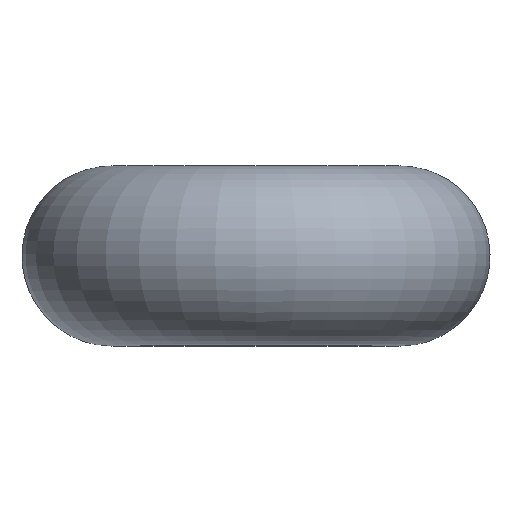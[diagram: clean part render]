
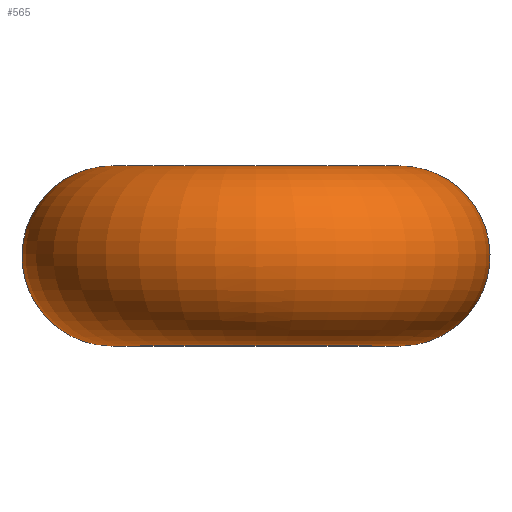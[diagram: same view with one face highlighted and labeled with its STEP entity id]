
A CAD part, top view. The second image highlights one B-rep face of the part: STEP entity #565.
In plain terms, the highlighted toroidal (fillet/blend) face has major radius 4 mm and minor radius 2.5 mm.
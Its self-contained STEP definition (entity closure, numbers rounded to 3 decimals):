
#439=CARTESIAN_POINT('',(4.124,0.464,-5.003));
#440=VERTEX_POINT('',#439);
#470=CARTESIAN_POINT('',(4.124,0.464,-5.003));
#471=CARTESIAN_POINT('',(4.238,0.477,-4.911));
#472=CARTESIAN_POINT('',(4.462,0.439,-4.708));
#473=CARTESIAN_POINT('',(4.695,0.206,-4.422));
#474=CARTESIAN_POINT('',(4.755,-0.14,-4.205));
#475=CARTESIAN_POINT('',(4.591,-0.62,-4.049));
#476=CARTESIAN_POINT('',(4.168,-0.994,-4.054));
#477=CARTESIAN_POINT('',(3.636,-1.169,-4.27));
#478=CARTESIAN_POINT('',(3.354,-1.131,-4.549));
#479=CARTESIAN_POINT('',(3.235,-1.014,-4.783));
#480=CARTESIAN_POINT('',(3.168,-0.86,-5.));
#481=CARTESIAN_POINT('',(3.167,-0.561,-5.27));
#482=CARTESIAN_POINT('',(3.3,-0.198,-5.395));
#483=CARTESIAN_POINT('',(3.604,0.245,-5.366));
#484=CARTESIAN_POINT('',(3.897,0.437,-5.186));
#485=CARTESIAN_POINT('',(4.124,0.464,-5.003));
#486=B_SPLINE_CURVE_WITH_KNOTS('',3,(#470,#471,#472,#473,#474,#475,#476,#477,#478,#479,#480,#481,#482,#483,#484,#485),.UNSPECIFIED.,.T.,.U.,(4,1,1,1,1,1,1,1,1,1,1,1,1,4),(0.0,0.02,0.041,0.061,0.081,0.122,0.142,0.163,0.173,0.183,0.203,0.234,0.244,0.284),.UNSPECIFIED.);
#487=EDGE_CURVE('',#440,#440,#486,.T.);
#512=CARTESIAN_POINT('',(0.,0.75,0.));
#513=DIRECTION('',(0.,-1.0,0.));
#514=DIRECTION('',(0.0,0.0,1.0));
#515=AXIS2_PLACEMENT_3D('',#512,#513,#514);
#516=TOROIDAL_SURFACE('',#515,4.0,2.5);
#517=CARTESIAN_POINT('',(0.,3.25,4.0));
#518=VERTEX_POINT('',#517);
#519=CARTESIAN_POINT('',(0.,3.25,0.));
#520=DIRECTION('',(0.0,-1.0,0.0));
#521=DIRECTION('',(0.0,0.0,-1.0));
#522=AXIS2_PLACEMENT_3D('',#519,#520,#521);
#523=CIRCLE('',#522,4.0);
#524=EDGE_CURVE('',#518,#518,#523,.T.);
#525=ORIENTED_EDGE('',*,*,#524,.T.);
#526=EDGE_LOOP('',(#525));
#527=FACE_OUTER_BOUND('',#526,.T.);
#528=CARTESIAN_POINT('',(0.,-1.75,4.0));
#529=VERTEX_POINT('',#528);
#530=CARTESIAN_POINT('',(0.,-1.75,0.));
#531=DIRECTION('',(0.0,1.0,0.0));
#532=DIRECTION('',(0.0,0.0,-1.0));
#533=AXIS2_PLACEMENT_3D('',#530,#531,#532);
#534=CIRCLE('',#533,4.0);
#535=EDGE_CURVE('',#529,#529,#534,.T.);
#536=ORIENTED_EDGE('',*,*,#535,.T.);
#537=EDGE_LOOP('',(#536));
#538=FACE_BOUND('',#537,.T.);
#539=CARTESIAN_POINT('',(-4.124,1.036,-5.003));
#540=VERTEX_POINT('',#539);
#541=CARTESIAN_POINT('',(-4.124,1.037,-5.003));
#542=CARTESIAN_POINT('',(-4.238,1.023,-4.911));
#543=CARTESIAN_POINT('',(-4.462,1.061,-4.708));
#544=CARTESIAN_POINT('',(-4.695,1.294,-4.422));
#545=CARTESIAN_POINT('',(-4.755,1.64,-4.205));
#546=CARTESIAN_POINT('',(-4.591,2.12,-4.049));
#547=CARTESIAN_POINT('',(-4.168,2.494,-4.054));
#548=CARTESIAN_POINT('',(-3.636,2.669,-4.27));
#549=CARTESIAN_POINT('',(-3.354,2.631,-4.549));
#550=CARTESIAN_POINT('',(-3.235,2.514,-4.783));
#551=CARTESIAN_POINT('',(-3.168,2.36,-5.));
#552=CARTESIAN_POINT('',(-3.167,2.061,-5.27));
#553=CARTESIAN_POINT('',(-3.3,1.698,-5.395));
#554=CARTESIAN_POINT('',(-3.604,1.255,-5.366));
#555=CARTESIAN_POINT('',(-3.897,1.063,-5.186));
#556=CARTESIAN_POINT('',(-4.124,1.037,-5.003));
#557=B_SPLINE_CURVE_WITH_KNOTS('',3,(#541,#542,#543,#544,#545,#546,#547,#548,#549,#550,#551,#552,#553,#554,#555,#556),.UNSPECIFIED.,.T.,.U.,(4,1,1,1,1,1,1,1,1,1,1,1,1,4),(0.0,0.02,0.041,0.061,0.081,0.122,0.142,0.163,0.173,0.183,0.203,0.234,0.244,0.284),.UNSPECIFIED.);
#558=EDGE_CURVE('',#540,#540,#557,.T.);
#559=ORIENTED_EDGE('',*,*,#558,.F.);
#560=EDGE_LOOP('',(#559));
#561=FACE_BOUND('',#560,.T.);
#562=ORIENTED_EDGE('',*,*,#487,.F.);
#563=EDGE_LOOP('',(#562));
#564=FACE_BOUND('',#563,.T.);
#565=ADVANCED_FACE('',(#527,#538,#561,#564),#516,.T.);
